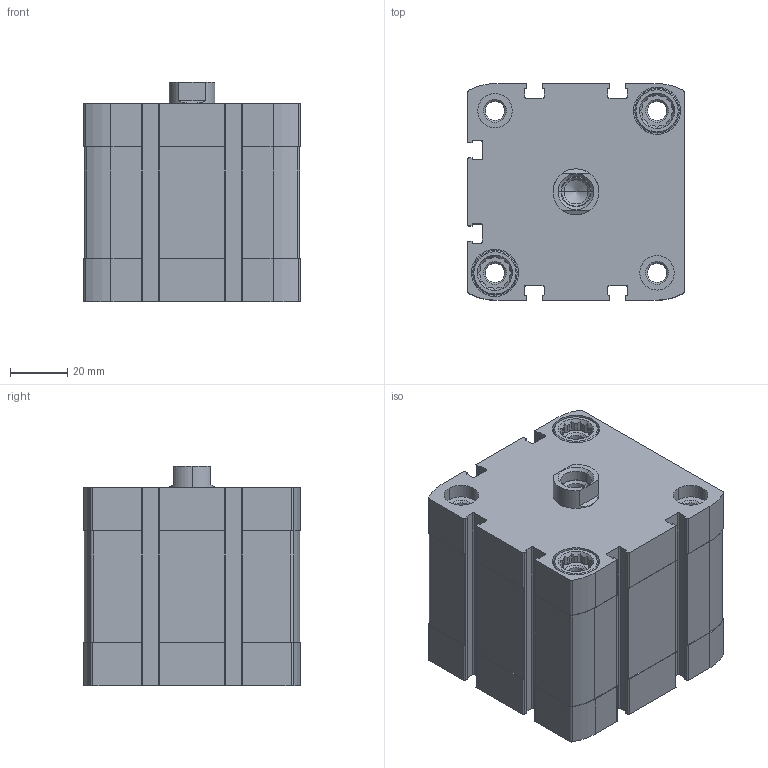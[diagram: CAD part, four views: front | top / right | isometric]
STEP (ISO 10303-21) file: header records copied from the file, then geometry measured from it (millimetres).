
FILE_DESCRIPTION (( 'STEP AP203' ), '1' );
FILE_NAME ('CCN63-20F.STEP', '2017-04-05T15:18:37', ( '' ), ( '' ), 'SwSTEP 2.0', 'SolidWorks 2016', '' );
FILE_SCHEMA (( 'CONFIG_CONTROL_DESIGN' ));
Length unit declared in the file: millimetre
Products named in the file (3): CCN-20---(Z); CCN-20_(KS); CCN63-20F
Assembly tree (2 placements, depth 2):
  CCN63-20F
    CCN-20---(Z)
    CCN-20_(KS)
Bounding box: 75.5 x 75.5 x 76.5 mm (x, y, z)
Volume: 301211.9 mm3; surface area: 72227.6 mm2
Topology: 2 solids, 2 shells, 471 faces, 1274 edges, 837 vertices
Faces by surface type: plane 219, cylinder 210, cone 42
Entity records: 15309 total; most frequent: CARTESIAN_POINT 2879, DIRECTION 2596, ORIENTED_EDGE 2544, EDGE_CURVE 1272, AXIS2_PLACEMENT_3D 946, VERTEX_POINT 837, VECTOR 704, LINE 704
